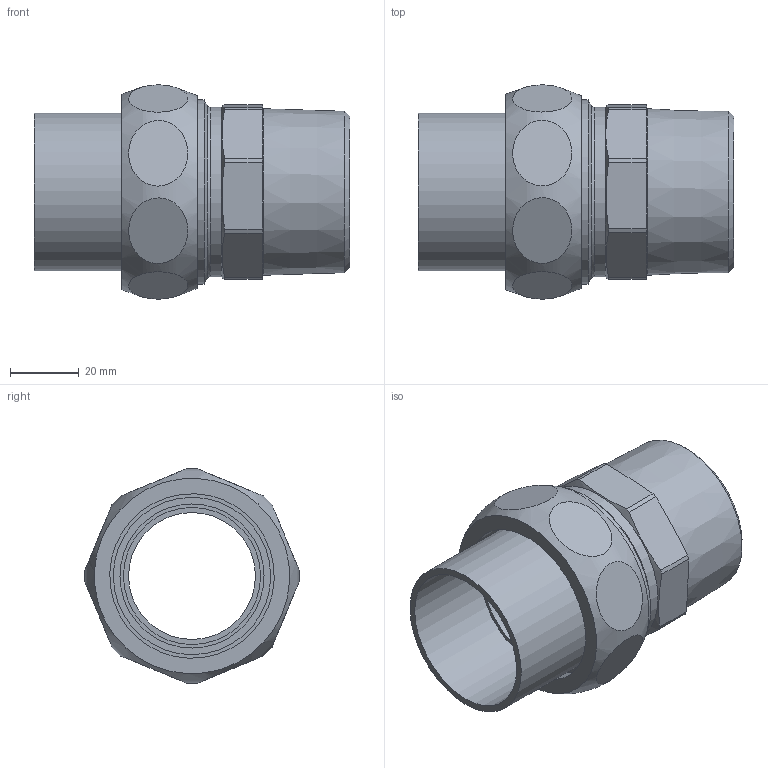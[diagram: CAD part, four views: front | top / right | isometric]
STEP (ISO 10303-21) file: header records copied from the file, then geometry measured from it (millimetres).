
FILE_DESCRIPTION((''),'2;1');
FILE_NAME('\\lg50001\SANHA_Legnica\Engineering\Public\RYSUNKI\SANHA POLSKA\4333g\step\14333g_42-112(1).stp','2013-06-27T16:07:07',('pajchrowski'),(''),'Autodesk Inventor 2009','Autodesk Inventor 2009','');
FILE_SCHEMA(('AUTOMOTIVE_DESIGN { 1 0 10303 214 1 1 1 1 }'));
Length unit declared in the file: millimetre
Products named in the file (5): 14333g_42-112(1); 14374_134(2); 1DCU134; 14372_42-134(1); 14376G-112-134(1)
Assembly tree (4 placements, depth 2):
  14333g_42-112(1)
    14374_134(2)
    1DCU134
    14372_42-134(1)
    14376G-112-134(1)
Bounding box: 92 x 62.51 x 62.51 mm (x, y, z)
Volume: 70837.8 mm3; surface area: 39829 mm2
Topology: 4 solids, 4 shells, 56 faces, 112 edges, 74 vertices
Faces by surface type: plane 27, cylinder 20, cone 7, bspline 2
Full cylindrical faces by diameter (mm): 37 x1, 40 x2, 42 x1, 45.9 x1, 48 x1, 49.6 x1, 50 x1, 50.5 x2, 50.788 x1, 53.746 x1
Entity records: 2931 total; most frequent: CARTESIAN_POINT 1717, DIRECTION 236, ORIENTED_EDGE 174, AXIS2_PLACEMENT_3D 110, EDGE_LOOP 96, EDGE_CURVE 87, VERTEX_POINT 71, FACE_OUTER_BOUND 56
